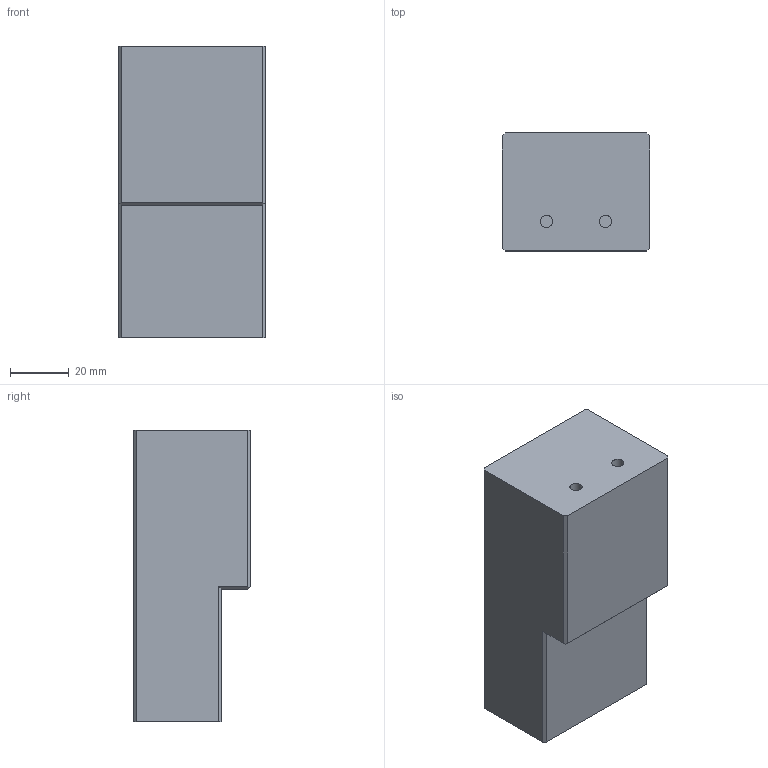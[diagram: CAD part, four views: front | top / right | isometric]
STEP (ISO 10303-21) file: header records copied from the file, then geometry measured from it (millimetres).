
FILE_DESCRIPTION(('CATIA V5 STEP Exchange'),'2;1');
FILE_NAME('G:\够快云库\系统集成开发部\1.部门成员\孙国\工装\手动插管\STP\V3\GZ-SDCG08_V3 前推气缸固定块.stp','2021-01-28T09:14:52+00:00',('none'),('none'),'CATIA Version 5 Release 21 GA (IN-10)','CATIA V5 STEP AP214','none');
FILE_SCHEMA(('AUTOMOTIVE_DESIGN { 1 0 10303 214 1 1 1 1 }'));
Length unit declared in the file: millimetre
Products named in the file (1): 前推气缸固定块
Bounding box: 50 x 40 x 99 mm (x, y, z)
Volume: 173727.9 mm3; surface area: 21727.3 mm2
Topology: 1 solids, 1 shells, 29 faces, 67 edges, 44 vertices
Faces by surface type: plane 21, cylinder 8
Entity records: 789 total; most frequent: CARTESIAN_POINT 143, ORIENTED_EDGE 134, DIRECTION 105, EDGE_CURVE 67, VERTEX_POINT 44, VECTOR 43, LINE 43, AXIS2_PLACEMENT_3D 40
